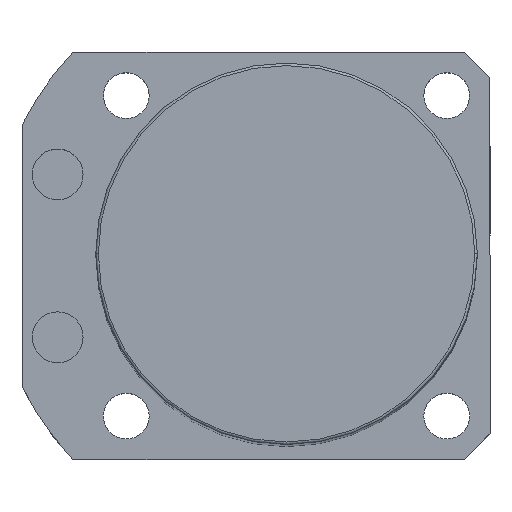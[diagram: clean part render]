
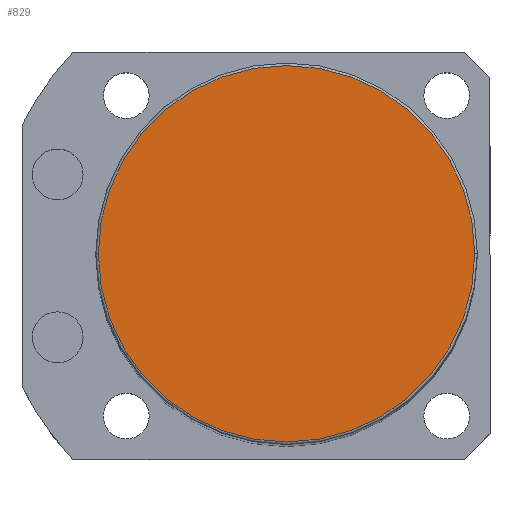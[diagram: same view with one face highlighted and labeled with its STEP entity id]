
A CAD part, top view. The second image highlights one B-rep face of the part: STEP entity #829.
In plain terms, the highlighted planar face has unit normal (0, 0, 1).
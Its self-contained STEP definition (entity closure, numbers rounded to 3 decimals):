
#17 = VERTEX_POINT ( 'NONE', #596 ) ;
#31 = ORIENTED_EDGE ( 'NONE', *, *, #232, .T. ) ;
#230 = FACE_OUTER_BOUND ( 'NONE', #486, .T. ) ;
#232 = EDGE_CURVE ( 'NONE', #2367, #17, #1562, .T. ) ;
#343 = CARTESIAN_POINT ( 'NONE',  ( 0., 0., 250.5 ) ) ;
#486 = EDGE_LOOP ( 'NONE', ( #1788, #31 ) ) ;
#544 = PLANE ( 'NONE',  #968 ) ;
#587 = CARTESIAN_POINT ( 'NONE',  ( -37., 0., 250.5 ) ) ;
#596 = CARTESIAN_POINT ( 'NONE',  ( 37., 0., 250.5 ) ) ;
#629 = DIRECTION ( 'NONE',  ( 0., 0., 1. ) ) ;
#826 = CARTESIAN_POINT ( 'NONE',  ( 0., 0., 250.5 ) ) ;
#829 = ADVANCED_FACE ( 'NONE', ( #230 ), #544, .T. ) ;
#940 = DIRECTION ( 'NONE',  ( 0., 0., 1. ) ) ;
#968 = AXIS2_PLACEMENT_3D ( 'NONE', #2463, #940, #1716 ) ;
#1047 = CIRCLE ( 'NONE', #2379, 37. ) ;
#1276 = DIRECTION ( 'NONE',  ( 1., 0., 0. ) ) ;
#1562 = CIRCLE ( 'NONE', #2270, 37. ) ;
#1618 = EDGE_CURVE ( 'NONE', #17, #2367, #1047, .T. ) ;
#1716 = DIRECTION ( 'NONE',  ( 1., 0., 0. ) ) ;
#1788 = ORIENTED_EDGE ( 'NONE', *, *, #1618, .T. ) ;
#1856 = DIRECTION ( 'NONE',  ( 0., 0., 1. ) ) ;
#2270 = AXIS2_PLACEMENT_3D ( 'NONE', #826, #629, #2344 ) ;
#2344 = DIRECTION ( 'NONE',  ( 1., 0., 0. ) ) ;
#2367 = VERTEX_POINT ( 'NONE', #587 ) ;
#2379 = AXIS2_PLACEMENT_3D ( 'NONE', #343, #1856, #1276 ) ;
#2463 = CARTESIAN_POINT ( 'NONE',  ( 0., 0., 250.5 ) ) ;
